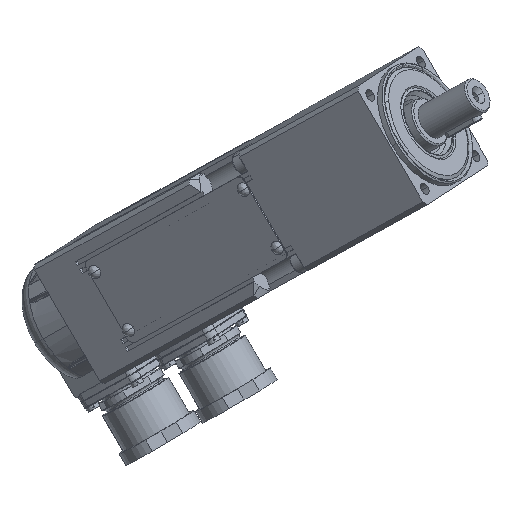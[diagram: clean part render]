
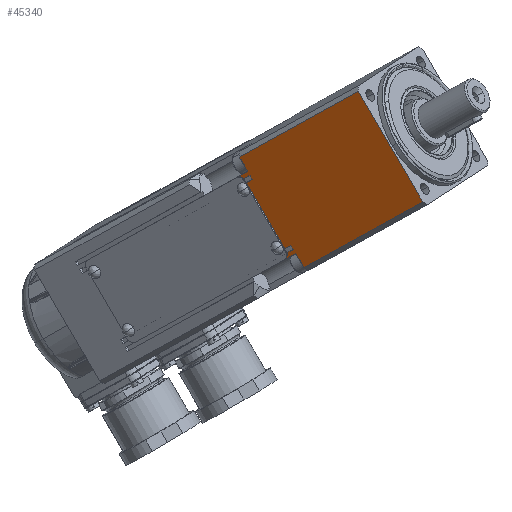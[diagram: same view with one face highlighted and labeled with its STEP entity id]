
A CAD part, front view. The second image highlights one B-rep face of the part: STEP entity #45340.
In plain terms, the highlighted planar face has unit normal (-0.468, -0.83, -0.304).
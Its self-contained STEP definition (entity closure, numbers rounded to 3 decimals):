
#12149=CARTESIAN_POINT('',(143.683,-261.212,424.34));
#12150=VERTEX_POINT('',#12149);
#12159=CARTESIAN_POINT('',(143.602,-261.533,425.339));
#12160=VERTEX_POINT('',#12159);
#12161=CARTESIAN_POINT('',(141.944,-260.47,424.993));
#12162=DIRECTION('',(0.468,0.829,0.304));
#12163=DIRECTION('',(0.869,-0.371,-0.327));
#12164=AXIS2_PLACEMENT_3D('',#12161,#12162,#12163);
#12165=CIRCLE('',#12164,2.);
#12166=EDGE_CURVE('',#12160,#12150,#12165,.T.);
#12202=CARTESIAN_POINT('',(128.679,-262.193,450.101));
#12203=VERTEX_POINT('',#12202);
#12227=CARTESIAN_POINT('',(129.519,-262.454,449.522));
#12228=VERTEX_POINT('',#12227);
#12236=CARTESIAN_POINT('',(128.363,-261.358,448.312));
#12237=DIRECTION('',(0.468,0.829,0.304));
#12238=DIRECTION('',(0.158,-0.418,0.895));
#12239=AXIS2_PLACEMENT_3D('',#12236,#12237,#12238);
#12240=CIRCLE('',#12239,2.);
#12241=EDGE_CURVE('',#12203,#12228,#12240,.T.);
#44743=CARTESIAN_POINT('',(188.009,-292.704,441.956));
#44744=VERTEX_POINT('',#44743);
#44794=CARTESIAN_POINT('',(166.923,-294.083,478.16));
#44795=VERTEX_POINT('',#44794);
#44803=CARTESIAN_POINT('',(188.009,-292.704,441.956));
#44804=DIRECTION('',(-0.503,-0.033,0.864));
#44805=VECTOR('',#44804,41.92);
#44806=LINE('',#44803,#44805);
#44807=EDGE_CURVE('',#44744,#44795,#44806,.T.);
#44839=CARTESIAN_POINT('',(142.894,-261.618,426.66));
#44840=VERTEX_POINT('',#44839);
#44937=CARTESIAN_POINT('',(130.319,-262.44,448.252));
#44938=VERTEX_POINT('',#44937);
#44987=CARTESIAN_POINT('',(127.357,-261.424,450.039));
#44988=VERTEX_POINT('',#44987);
#44989=CARTESIAN_POINT('',(128.363,-261.358,448.312));
#44990=DIRECTION('',(0.468,0.829,0.304));
#44991=DIRECTION('',(0.158,-0.418,0.895));
#44992=AXIS2_PLACEMENT_3D('',#44989,#44990,#44991);
#44993=CIRCLE('',#44992,2.);
#44994=EDGE_CURVE('',#44988,#12203,#44993,.T.);
#45013=CARTESIAN_POINT('',(142.95,-260.404,423.266));
#45014=VERTEX_POINT('',#45013);
#45021=CARTESIAN_POINT('',(141.944,-260.47,424.993));
#45022=DIRECTION('',(0.468,0.829,0.304));
#45023=DIRECTION('',(0.869,-0.371,-0.327));
#45024=AXIS2_PLACEMENT_3D('',#45021,#45022,#45023);
#45025=CIRCLE('',#45024,2.);
#45026=EDGE_CURVE('',#12150,#45014,#45025,.T.);
#45044=CARTESIAN_POINT('',(130.319,-262.44,448.252));
#45045=DIRECTION('',(0.503,0.033,-0.864));
#45046=VECTOR('',#45045,25.);
#45047=LINE('',#45044,#45046);
#45048=EDGE_CURVE('',#44938,#44840,#45047,.T.);
#45239=CARTESIAN_POINT('',(72.493,-221.597,425.924));
#45240=DIRECTION('',(-0.468,-0.829,-0.304));
#45241=DIRECTION('',(-0.726,0.558,-0.402));
#45242=AXIS2_PLACEMENT_3D('',#45239,#45240,#45241);
#45243=PLANE('',#45242);
#45244=ORIENTED_EDGE('',*,*,#44994,.T.);
#45245=ORIENTED_EDGE('',*,*,#12241,.T.);
#45246=CARTESIAN_POINT('',(131.562,-264.023,450.652));
#45247=VERTEX_POINT('',#45246);
#45248=CARTESIAN_POINT('',(129.519,-262.454,449.522));
#45249=DIRECTION('',(0.726,-0.558,0.402));
#45250=VECTOR('',#45249,2.814);
#45251=LINE('',#45248,#45250);
#45252=EDGE_CURVE('',#12228,#45247,#45251,.T.);
#45253=ORIENTED_EDGE('',*,*,#45252,.T.);
#45254=CARTESIAN_POINT('',(132.317,-263.974,449.357));
#45255=VERTEX_POINT('',#45254);
#45256=CARTESIAN_POINT('',(131.562,-264.023,450.652));
#45257=DIRECTION('',(0.503,0.033,-0.864));
#45258=VECTOR('',#45257,1.5);
#45259=LINE('',#45256,#45258);
#45260=EDGE_CURVE('',#45247,#45255,#45259,.T.);
#45261=ORIENTED_EDGE('',*,*,#45260,.T.);
#45262=CARTESIAN_POINT('',(132.317,-263.974,449.357));
#45263=DIRECTION('',(-0.726,0.558,-0.402));
#45264=VECTOR('',#45263,2.75);
#45265=LINE('',#45262,#45264);
#45266=EDGE_CURVE('',#45255,#44938,#45265,.T.);
#45267=ORIENTED_EDGE('',*,*,#45266,.T.);
#45268=ORIENTED_EDGE('',*,*,#45048,.T.);
#45269=CARTESIAN_POINT('',(144.892,-263.151,427.765));
#45270=VERTEX_POINT('',#45269);
#45271=CARTESIAN_POINT('',(142.894,-261.618,426.66));
#45272=DIRECTION('',(0.726,-0.558,0.402));
#45273=VECTOR('',#45272,2.75);
#45274=LINE('',#45271,#45273);
#45275=EDGE_CURVE('',#44840,#45270,#45274,.T.);
#45276=ORIENTED_EDGE('',*,*,#45275,.T.);
#45277=CARTESIAN_POINT('',(145.646,-263.102,426.47));
#45278=VERTEX_POINT('',#45277);
#45279=CARTESIAN_POINT('',(144.892,-263.151,427.765));
#45280=DIRECTION('',(0.503,0.033,-0.864));
#45281=VECTOR('',#45280,1.5);
#45282=LINE('',#45279,#45281);
#45283=EDGE_CURVE('',#45270,#45278,#45282,.T.);
#45284=ORIENTED_EDGE('',*,*,#45283,.T.);
#45285=CARTESIAN_POINT('',(145.646,-263.102,426.47));
#45286=DIRECTION('',(-0.726,0.558,-0.402));
#45287=VECTOR('',#45286,2.814);
#45288=LINE('',#45285,#45287);
#45289=EDGE_CURVE('',#45278,#12160,#45288,.T.);
#45290=ORIENTED_EDGE('',*,*,#45289,.T.);
#45291=ORIENTED_EDGE('',*,*,#12166,.T.);
#45292=ORIENTED_EDGE('',*,*,#45026,.T.);
#45293=CARTESIAN_POINT('',(146.401,-263.053,425.174));
#45294=VERTEX_POINT('',#45293);
#45295=CARTESIAN_POINT('',(142.95,-260.404,423.266));
#45296=DIRECTION('',(0.726,-0.558,0.402));
#45297=VECTOR('',#45296,4.75);
#45298=LINE('',#45295,#45297);
#45299=EDGE_CURVE('',#45014,#45294,#45298,.T.);
#45300=ORIENTED_EDGE('',*,*,#45299,.T.);
#45301=CARTESIAN_POINT('',(149.147,-262.873,420.459));
#45302=VERTEX_POINT('',#45301);
#45303=CARTESIAN_POINT('',(146.401,-263.053,425.174));
#45304=DIRECTION('',(0.503,0.033,-0.864));
#45305=VECTOR('',#45304,5.46);
#45306=LINE('',#45303,#45305);
#45307=EDGE_CURVE('',#45294,#45302,#45306,.T.);
#45308=ORIENTED_EDGE('',*,*,#45307,.T.);
#45309=CARTESIAN_POINT('',(149.147,-262.873,420.459));
#45310=DIRECTION('',(0.726,-0.558,0.402));
#45311=VECTOR('',#45310,53.5);
#45312=LINE('',#45309,#45311);
#45313=EDGE_CURVE('',#45302,#44744,#45312,.T.);
#45314=ORIENTED_EDGE('',*,*,#45313,.T.);
#45315=ORIENTED_EDGE('',*,*,#44807,.T.);
#45316=CARTESIAN_POINT('',(128.061,-264.252,456.663));
#45317=VERTEX_POINT('',#45316);
#45318=CARTESIAN_POINT('',(128.061,-264.252,456.663));
#45319=DIRECTION('',(0.726,-0.558,0.402));
#45320=VECTOR('',#45319,53.5);
#45321=LINE('',#45318,#45320);
#45322=EDGE_CURVE('',#45317,#44795,#45321,.T.);
#45323=ORIENTED_EDGE('',*,*,#45322,.F.);
#45324=CARTESIAN_POINT('',(130.808,-264.072,451.948));
#45325=VERTEX_POINT('',#45324);
#45326=CARTESIAN_POINT('',(128.061,-264.252,456.663));
#45327=DIRECTION('',(0.503,0.033,-0.864));
#45328=VECTOR('',#45327,5.46);
#45329=LINE('',#45326,#45328);
#45330=EDGE_CURVE('',#45317,#45325,#45329,.T.);
#45331=ORIENTED_EDGE('',*,*,#45330,.T.);
#45332=CARTESIAN_POINT('',(130.808,-264.072,451.948));
#45333=DIRECTION('',(-0.726,0.558,-0.402));
#45334=VECTOR('',#45333,4.75);
#45335=LINE('',#45332,#45334);
#45336=EDGE_CURVE('',#45325,#44988,#45335,.T.);
#45337=ORIENTED_EDGE('',*,*,#45336,.T.);
#45338=EDGE_LOOP('',(#45244,#45245,#45253,#45261,#45267,#45268,#45276,#45284,#45290,#45291,#45292,#45300,#45308,#45314,#45315,#45323,#45331,#45337));
#45339=FACE_OUTER_BOUND('',#45338,.T.);
#45340=ADVANCED_FACE('',(#45339),#45243,.T.);
